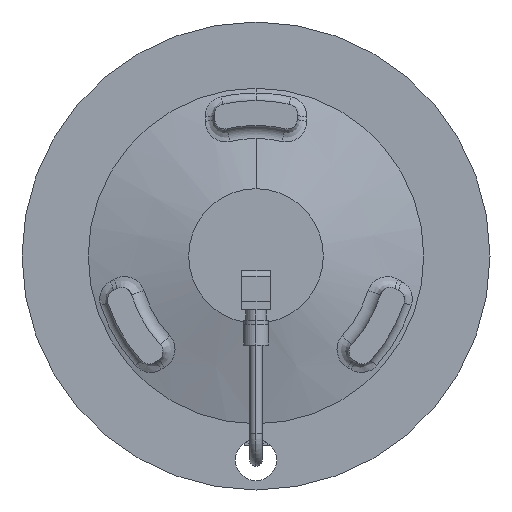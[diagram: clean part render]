
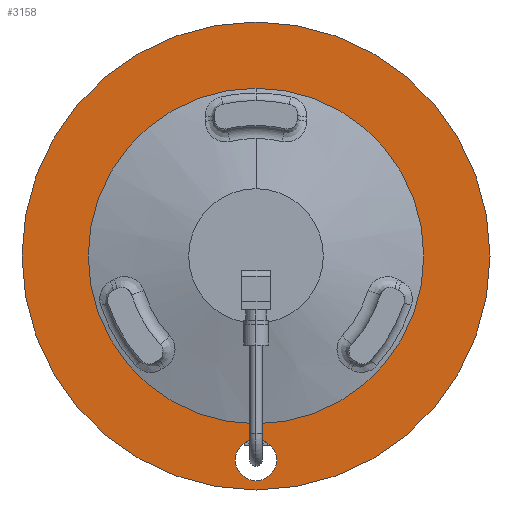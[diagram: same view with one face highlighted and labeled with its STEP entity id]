
A CAD part, front view. The second image highlights one B-rep face of the part: STEP entity #3158.
In plain terms, the highlighted planar face has unit normal (0, -1, 0).
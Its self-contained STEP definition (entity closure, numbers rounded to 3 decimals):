
#115 = ORIENTED_EDGE ( 'NONE', *, *, #240, .F. ) ;
#240 = EDGE_CURVE ( 'NONE', #1358, #2667, #15030, .T. ) ;
#246 = CARTESIAN_POINT ( 'NONE',  ( 0., -133.8, 81.017 ) ) ;
#682 = CARTESIAN_POINT ( 'NONE',  ( 0., -133.8, 0. ) ) ;
#1154 = DIRECTION ( 'NONE',  ( 0., 0., -1. ) ) ;
#1233 = VERTEX_POINT ( 'NONE', #246 ) ;
#1349 = DIRECTION ( 'NONE',  ( 0., -1., 0. ) ) ;
#1358 = VERTEX_POINT ( 'NONE', #11848 ) ;
#2095 = EDGE_CURVE ( 'NONE', #1233, #7652, #14229, .T. ) ;
#2425 = CARTESIAN_POINT ( 'NONE',  ( 0., -133.8, -98.5 ) ) ;
#2667 = VERTEX_POINT ( 'NONE', #13728 ) ;
#3012 = AXIS2_PLACEMENT_3D ( 'NONE', #8089, #14836, #15849 ) ;
#3158 = ADVANCED_FACE ( 'NONE', ( #10299, #10129, #9112 ), #11641, .T. ) ;
#3715 = DIRECTION ( 'NONE',  ( 0., 0., -1. ) ) ;
#3936 = DIRECTION ( 'NONE',  ( 0., -1., 0. ) ) ;
#3960 = CARTESIAN_POINT ( 'NONE',  ( -113., -133.8, 0. ) ) ;
#5211 = CARTESIAN_POINT ( 'NONE',  ( 0., -133.8, 113. ) ) ;
#5274 = AXIS2_PLACEMENT_3D ( 'NONE', #12230, #11121, #9681 ) ;
#5329 = CARTESIAN_POINT ( 'NONE',  ( 0., -133.8, -98.5 ) ) ;
#5499 = DIRECTION ( 'NONE',  ( 0., -1., 0. ) ) ;
#5577 = DIRECTION ( 'NONE',  ( 0., 0., -1. ) ) ;
#5823 = DIRECTION ( 'NONE',  ( 0., 1., 0. ) ) ;
#5875 = AXIS2_PLACEMENT_3D ( 'NONE', #5329, #5499, #5577 ) ;
#6294 = EDGE_LOOP ( 'NONE', ( #7385, #16500 ) ) ;
#6481 = EDGE_LOOP ( 'NONE', ( #10084, #16045 ) ) ;
#6674 = EDGE_CURVE ( 'NONE', #7221, #9226, #10970, .T. ) ;
#7221 = VERTEX_POINT ( 'NONE', #5211 ) ;
#7385 = ORIENTED_EDGE ( 'NONE', *, *, #6674, .F. ) ;
#7569 = ORIENTED_EDGE ( 'NONE', *, *, #15920, .F. ) ;
#7640 = AXIS2_PLACEMENT_3D ( 'NONE', #682, #5823, #10985 ) ;
#7652 = VERTEX_POINT ( 'NONE', #12291 ) ;
#7687 = CARTESIAN_POINT ( 'NONE',  ( 0., -133.8, -113. ) ) ;
#8089 = CARTESIAN_POINT ( 'NONE',  ( 0., -133.8, 0. ) ) ;
#8621 = AXIS2_PLACEMENT_3D ( 'NONE', #3960, #1349, #3715 ) ;
#9112 = FACE_OUTER_BOUND ( 'NONE', #6294, .T. ) ;
#9226 = VERTEX_POINT ( 'NONE', #7687 ) ;
#9681 = DIRECTION ( 'NONE',  ( 0., 0., 1. ) ) ;
#10083 = CARTESIAN_POINT ( 'NONE',  ( 0., -133.8, 0. ) ) ;
#10084 = ORIENTED_EDGE ( 'NONE', *, *, #2095, .T. ) ;
#10129 = FACE_BOUND ( 'NONE', #6481, .T. ) ;
#10299 = FACE_BOUND ( 'NONE', #12513, .T. ) ;
#10505 = EDGE_CURVE ( 'NONE', #9226, #7221, #12566, .T. ) ;
#10970 = CIRCLE ( 'NONE', #14748, 113. ) ;
#10985 = DIRECTION ( 'NONE',  ( 0., 0., 1. ) ) ;
#11003 = AXIS2_PLACEMENT_3D ( 'NONE', #2425, #3936, #1154 ) ;
#11121 = DIRECTION ( 'NONE',  ( 0., 1., 0. ) ) ;
#11358 = CIRCLE ( 'NONE', #3012, 81.017 ) ;
#11641 = PLANE ( 'NONE',  #8621 ) ;
#11848 = CARTESIAN_POINT ( 'NONE',  ( 0., -133.8, -108.5 ) ) ;
#12230 = CARTESIAN_POINT ( 'NONE',  ( 0., -133.8, 0. ) ) ;
#12291 = CARTESIAN_POINT ( 'NONE',  ( 0., -133.8, -81.017 ) ) ;
#12448 = DIRECTION ( 'NONE',  ( 0., 1., 0. ) ) ;
#12513 = EDGE_LOOP ( 'NONE', ( #7569, #115 ) ) ;
#12566 = CIRCLE ( 'NONE', #5274, 113. ) ;
#13550 = EDGE_CURVE ( 'NONE', #7652, #1233, #11358, .T. ) ;
#13718 = DIRECTION ( 'NONE',  ( 0., 0., 1. ) ) ;
#13728 = CARTESIAN_POINT ( 'NONE',  ( 0., -133.8, -88.5 ) ) ;
#14229 = CIRCLE ( 'NONE', #7640, 81.017 ) ;
#14748 = AXIS2_PLACEMENT_3D ( 'NONE', #10083, #12448, #13718 ) ;
#14836 = DIRECTION ( 'NONE',  ( 0., 1., 0. ) ) ;
#15030 = CIRCLE ( 'NONE', #11003, 10. ) ;
#15049 = CIRCLE ( 'NONE', #5875, 10. ) ;
#15849 = DIRECTION ( 'NONE',  ( 0., 0., 1. ) ) ;
#15920 = EDGE_CURVE ( 'NONE', #2667, #1358, #15049, .T. ) ;
#16045 = ORIENTED_EDGE ( 'NONE', *, *, #13550, .T. ) ;
#16500 = ORIENTED_EDGE ( 'NONE', *, *, #10505, .F. ) ;
